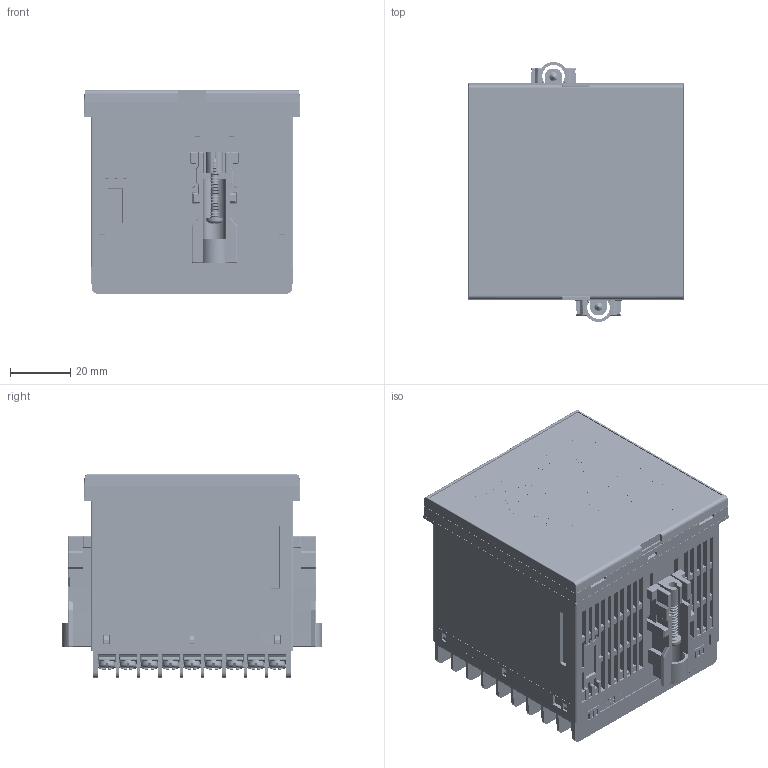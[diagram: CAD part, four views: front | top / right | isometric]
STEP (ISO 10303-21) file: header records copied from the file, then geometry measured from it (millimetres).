
FILE_DESCRIPTION (( 'STEP AP203' ), '1' );
FILE_NAME ('YIRB700-7(0).STEP', '2019-04-17T04:28:03', ( '' ), ( '' ), 'SwSTEP 2.0', 'SolidWorks 2018', '' );
FILE_SCHEMA (( 'CONFIG_CONTROL_DESIGN' ));
Products named in the file (6): KRZ400-520; YIRB700-7(0); RB700(基本設計)_WEB; KRB700-310_WEB; KRZ400-519; 3亊20_僞僢僺儞僫儀+-_3亊20_僞僢僺儞僫儀_+-
Assembly tree (6 placements, depth 3):
  YIRB700-7(0)
    RB700(基本設計)_WEB
    KRB700-310_WEB
    KRZ400-520  x2
      KRZ400-519
      3亊20_僞僢僺儞僫儀+-_3亊20_僞僢僺儞僫儀_+-
Bounding box: 72.2 x 86.65 x 67.85 mm (x, y, z)
Volume: 291251.8 mm3; surface area: 64900 mm2
Topology: 9 solids, 9 shells, 9454 faces, 25881 edges, 16748 vertices
Faces by surface type: plane 6033, bspline 1743, cylinder 1250, cone 176, sphere 176, torus 76
Entity records: 322868 total; most frequent: CARTESIAN_POINT 107457, ORIENTED_EDGE 48408, DIRECTION 38036, EDGE_CURVE 24204, VECTOR 18024, LINE 18024, VERTEX_POINT 15799, AXIS2_PLACEMENT_3D 10006
